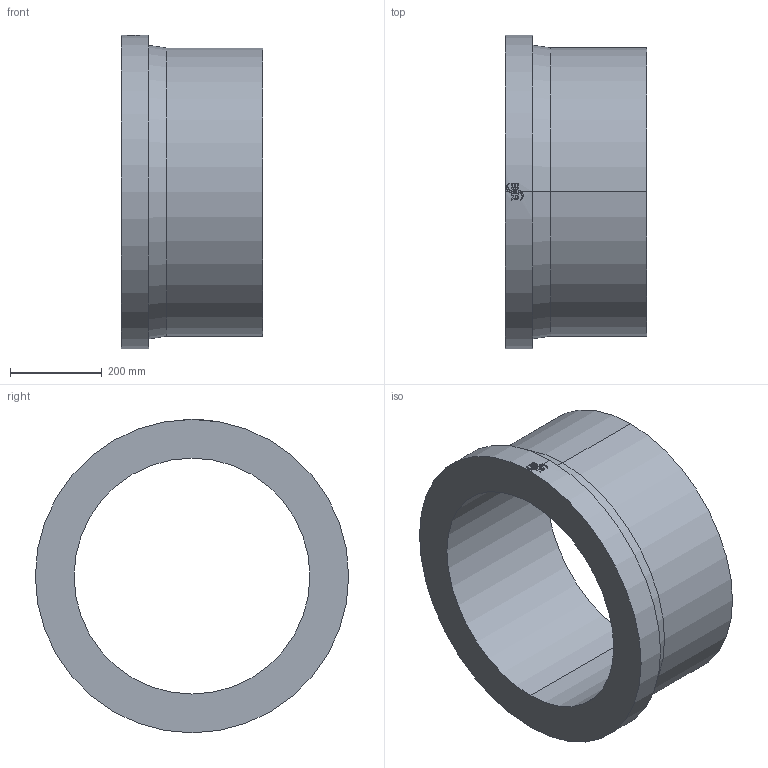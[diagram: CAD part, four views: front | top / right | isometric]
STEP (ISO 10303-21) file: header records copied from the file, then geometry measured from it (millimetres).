
FILE_DESCRIPTION (( 'STEP AP214' ), '1' );
FILE_NAME ('233529F015.STEP', '2018-07-20T11:11:30', ( '' ), ( '' ), 'SwSTEP 2.0', 'SolidWorks 2017', '' );
FILE_SCHEMA (( 'AUTOMOTIVE_DESIGN' ));
Length unit declared in the file: millimetre
Products named in the file (1): 233529F015
Bounding box: 310 x 685 x 685.5 mm (x, y, z)
Volume: 35556300.4 mm3; surface area: 1435349.9 mm2
Topology: 1 solids, 1 shells, 60 faces, 154 edges, 102 vertices
Faces by surface type: cylinder 29, plane 29, cone 2
Entity records: 3080 total; most frequent: CARTESIAN_POINT 963, ORIENTED_EDGE 308, DIRECTION 282, EDGE_CURVE 154, AXIS2_PLACEMENT_3D 107, VERTEX_POINT 102, LINE 68, VECTOR 68
